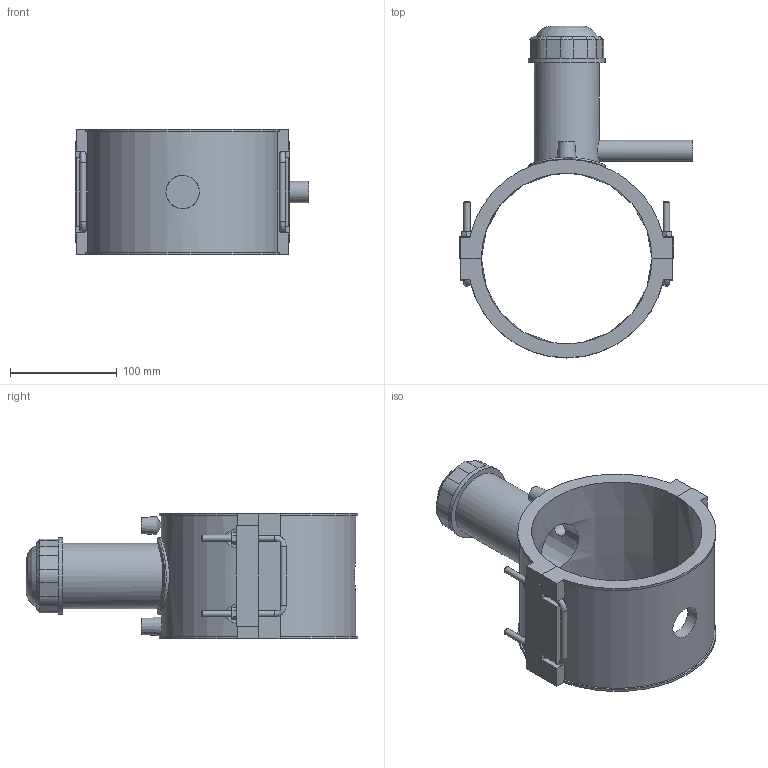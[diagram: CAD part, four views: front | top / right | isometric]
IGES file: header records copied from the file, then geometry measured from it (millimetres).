
Global section: file name: 496304160020.ipt; native system: Autodesk Inventor 2015; preprocessor: unknown; author: KIM; date: 20190124.131010; units: millimetre
Bounding box: 218.5 x 311.02 x 118 mm (x, y, z)
Volume: 998580.5 mm3; surface area: 221373.8 mm2
Topology: 2 solids, 2 shells, 185 faces, 472 edges, 307 vertices
Faces by surface type: plane 112, cylinder 32, revolution 20, cone 16, bspline 5
Full cylindrical faces by diameter (mm): 4 x2, 6 x10, 20 x1, 61.2 x1, 72 x2
